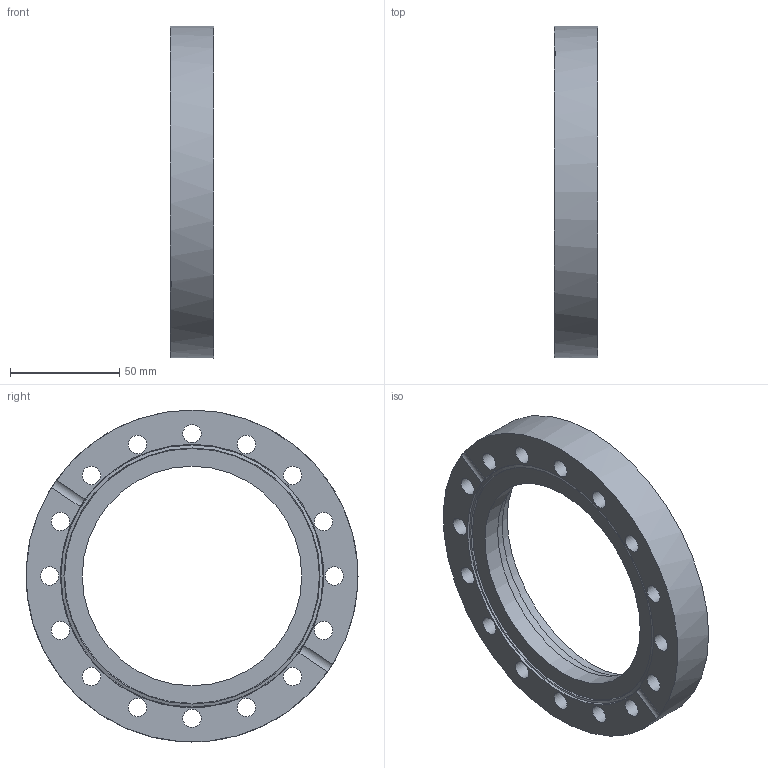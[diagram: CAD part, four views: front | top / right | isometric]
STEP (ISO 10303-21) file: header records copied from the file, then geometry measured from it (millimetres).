
FILE_DESCRIPTION( ( 'Unknown' ), '1' );
FILE_NAME( 'X:/Daten ( aktueller Bestand )/Projekte und Zeichnungen/Solid Edge/STP-Dateien/CF-Teile/7514R.stp', 'Unknown', ( 'Unknown' ), ( 'Unknown' ), 'PSStep 14.0', 'Unknown', ' ' );
FILE_SCHEMA( ( 'AUTOMOTIVE_DESIGN { 1 0 10303 214 1 1 1 1 }' ) );
Length unit declared in the file: millimetre
Products named in the file (3): Assem1; 7514R-1; 7514R-2
Assembly tree (2 placements, depth 2):
  Assem1
    7514R-1
    7514R-2
Bounding box: 19.9 x 152 x 152 mm (x, y, z)
Volume: 169072.2 mm3; surface area: 57268.6 mm2
Topology: 2 solids, 2 shells, 33 faces, 98 edges, 70 vertices
Faces by surface type: cylinder 24, plane 7, cone 2
Full cylindrical faces by diameter (mm): 8.4 x16, 100.5 x1, 104.3 x1, 109 x1, 120 x1, 120.6 x1, 152 x1
Entity records: 1320 total; most frequent: CARTESIAN_POINT 212, DIRECTION 172, ORIENTED_EDGE 112, EDGE_LOOP 94, AXIS2_PLACEMENT_3D 84, EDGE_CURVE 56, FACE_OUTER_BOUND 55, VERTEX_POINT 52
